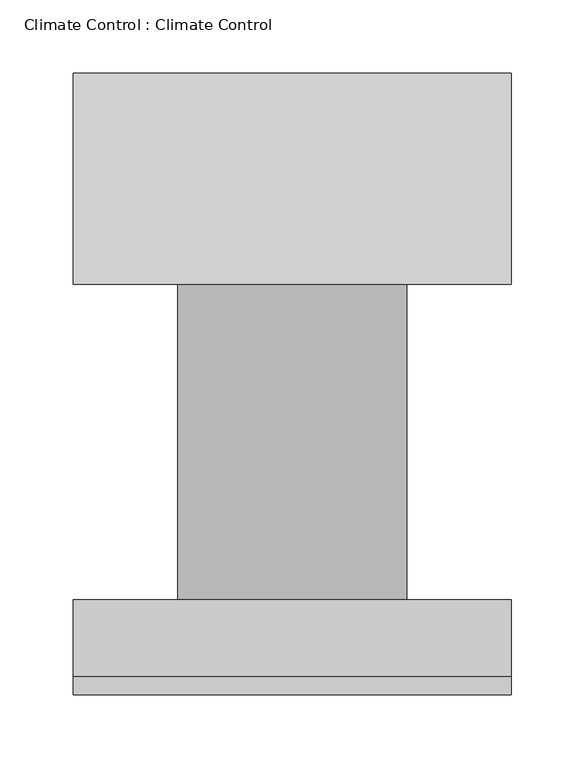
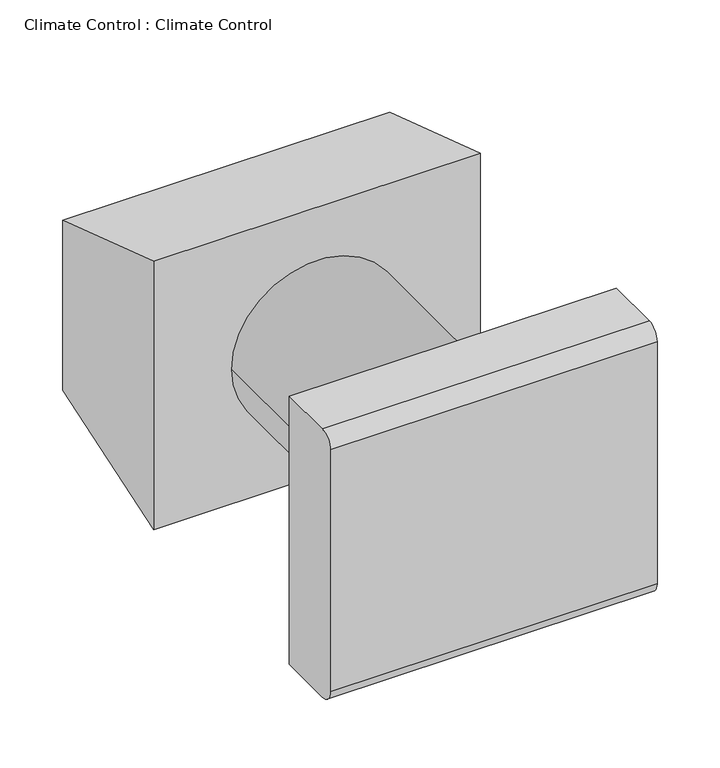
"""IFC4 building model written with IfcOpenShell, lengths in millimetres: proxy geometry, Climate Control : Climate Control."""

from ifc_helpers import new_model, si_unit, point, frame, frame_2d, origin, place, context, project, spatial, polyline, circle_curve, trimmed, segment, composite_curve, outline, extrude, source, transform, mapped, element, save


def climate_control_climate_control_6d8de276(model_context):
    return source(origin(), model_context, "Body", "SweptSolid", [
        extrude(outline(composite_curve([segment(polyline([(-190.8823416, 260.5249889), (-138.5583416, 260.5249889), (-138.5583416, 0.1749889), (-190.8823416, 0.1749889)]), True, "CONTINUOUS"), segment(trimmed(circle_curve(frame_2d((-190.8823416, 12.8749889)), 12.7), [point((-190.8823416, 0.1749889))], [point((-203.5823416, 12.8749889))], False, "CARTESIAN"), True, "CONTINUOUS"), segment(polyline([(-203.5823416, 12.8749889), (-203.5823416, 247.8249889)]), True, "CONTINUOUS"), segment(trimmed(circle_curve(frame_2d((-190.8823416, 247.8249889)), 12.7), [point((-203.5823416, 247.8249889))], [point((-190.8823416, 260.5249889))], False, "CARTESIAN"), True, "CONTINUOUS")], self_intersect=False)), frame((0.0, 0.0, 0.0), z_axis=(1.0, 0.0, 0.0), x_axis=(0.0, 1.0, 0.0)), (0.0, 0.0, 1.0), 300.0),
        extrude(outline(composite_curve([segment(trimmed(circle_curve(frame_2d((130.3499889, 150.0)), 78.5), [point((130.3499889, 71.5))], [point((130.3499889, 228.5))], False, "CARTESIAN"), True, "CONTINUOUS"), segment(trimmed(circle_curve(frame_2d((130.3499889, 150.0)), 78.5), [point((130.3499889, 228.5))], [point((130.3499889, 71.5))], False, "CARTESIAN"), True, "CONTINUOUS")], self_intersect=False)), frame((0.0, -138.5583416, 0.0), z_axis=(0.0, 1.0, 0.0), x_axis=(0.0, 0.0, 1.0)), (0.0, 0.0, 1.0), 216.0),
        extrude(outline(polyline([(77.4416584, 260.3499889), (221.9040055, 212.7251625), (221.9040055, 47.6250648), (77.4416584, 0.0), (77.4416584, 260.3499889)])), frame((0.0, 0.0, 0.0), z_axis=(1.0, 0.0, 0.0), x_axis=(0.0, 1.0, 0.0)), (0.0, 0.0, 1.0), 300.0),
    ])


if __name__ == "__main__":
    model = new_model("IFC4")
    model_context = context("Model", 3, world=origin())
    ifc_project = project(units=[si_unit("LENGTHUNIT", "METRE", prefix="MILLI")], contexts=[model_context])
    site = spatial("IfcSite", under=ifc_project)
    building = spatial("IfcBuilding", under=site)
    placement = place(None, origin())
    climate_control_climate_control_shape = climate_control_climate_control_6d8de276(model_context)
    element("IfcBuildingElementProxy", 1, Name="Climate Control : Climate Control", ObjectType="Climate Control : Climate Control", at=placement, inside=building, context=model_context, shape_type="MappedRepresentation", body=[
        mapped(climate_control_climate_control_shape, transform((0.0, 0.0, 0.0), x_axis=(1.0, 0.0, 0.0), y_axis=(0.0, 1.0, 0.0), z_axis=(0.0, 0.0, 1.0))),
    ])
    save(model, "model.ifc")
